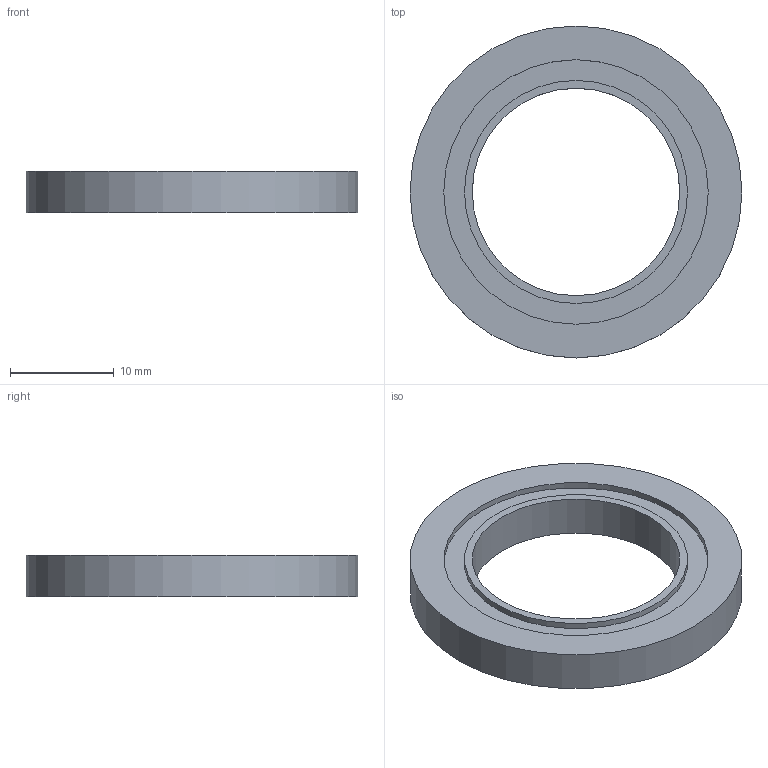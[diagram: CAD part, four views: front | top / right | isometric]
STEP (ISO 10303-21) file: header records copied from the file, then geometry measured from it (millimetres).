
FILE_DESCRIPTION(/* description */ (''),/* implementation_level */ '2;1');
FILE_NAME(/* name */ 'W:\WEBOVKY\Knecht\VD\VD20\VD20.stp',/* time_stamp */ '2021-03-08T12:28:47+01:00',/* author */ ('mkorenek'),/* organization */ (''),/* preprocessor_version */ 'ST-DEVELOPER v18.1',/* originating_system */ 'Autodesk Inventor 2021',/* authorisation */ '');
FILE_SCHEMA (('AUTOMOTIVE_DESIGN { 1 0 10303 214 3 1 1 }'));
Length unit declared in the file: millimetre
Products named in the file (1): VD16
Bounding box: 32 x 32 x 4 mm (x, y, z)
Volume: 1871.8 mm3; surface area: 1722.2 mm2
Topology: 1 solids, 1 shells, 8 faces, 16 edges, 12 vertices
Faces by surface type: plane 4, cylinder 4
Full cylindrical faces by diameter (mm): 20 x1, 21.5 x1, 25.5 x1, 32 x1
Entity records: 269 total; most frequent: DIRECTION 46, CARTESIAN_POINT 37, ORIENTED_EDGE 32, AXIS2_PLACEMENT_3D 21, EDGE_CURVE 16, EDGE_LOOP 12, CIRCLE 12, VERTEX_POINT 12
